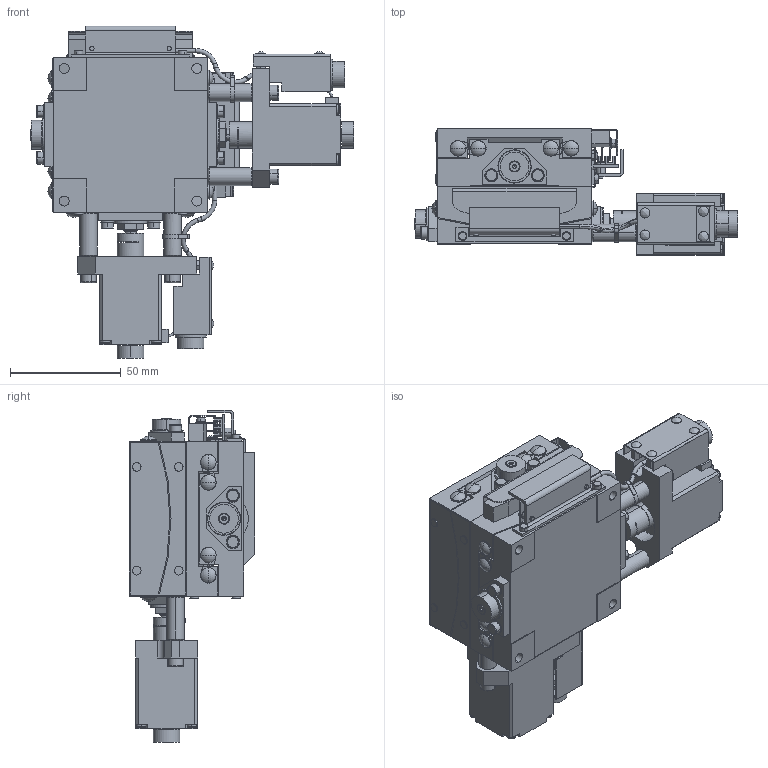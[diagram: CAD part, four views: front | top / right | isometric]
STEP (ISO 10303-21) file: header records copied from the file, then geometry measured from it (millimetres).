
FILE_DESCRIPTION (( 'STEP AP214' ), '1' );
FILE_NAME ('KAB07096AM-RT.STEP', '2024-04-17T02:53:23', ( '' ), ( '' ), 'SwSTEP 2.0', 'SolidWorks 2017', '' );
FILE_SCHEMA (( 'AUTOMOTIVE_DESIGN' ));
Length unit declared in the file: millimetre
Products named in the file (9): KGB07096AT-RC_M_T; KGB-TOP-07096-R; KGB07122AT-RC_M_T; KAB07096AM-RT; KGB-70-T-R; KGB-BASE-07122-R; KGB-TOP-07122-R; KGB-70-M-12-R; KGB-BASE-07096-R
Assembly tree (10 placements, depth 3):
  KAB07096AM-RT
    KGB07122AT-RC_M_T
      KGB-BASE-07122-R
      KGB-TOP-07122-R
      KGB-70-T-R
      KGB-70-M-12-R
    KGB07096AT-RC_M_T
      KGB-BASE-07096-R
      KGB-TOP-07096-R
      KGB-70-T-R
      KGB-70-M-12-R
Bounding box: 146.4 x 57 x 150.2 mm (x, y, z)
Volume: 335899.4 mm3; surface area: 125017.1 mm2
Topology: 14 solids, 95 shells, 2851 faces, 6986 edges, 4496 vertices
Faces by surface type: plane 1463, cylinder 952, cone 252, torus 96, bspline 48, sphere 40
Entity records: 75625 total; most frequent: CARTESIAN_POINT 14370, DIRECTION 13007, ORIENTED_EDGE 12056, EDGE_CURVE 6028, AXIS2_PLACEMENT_3D 4606, VERTEX_POINT 3937, VECTOR 3795, LINE 3795
